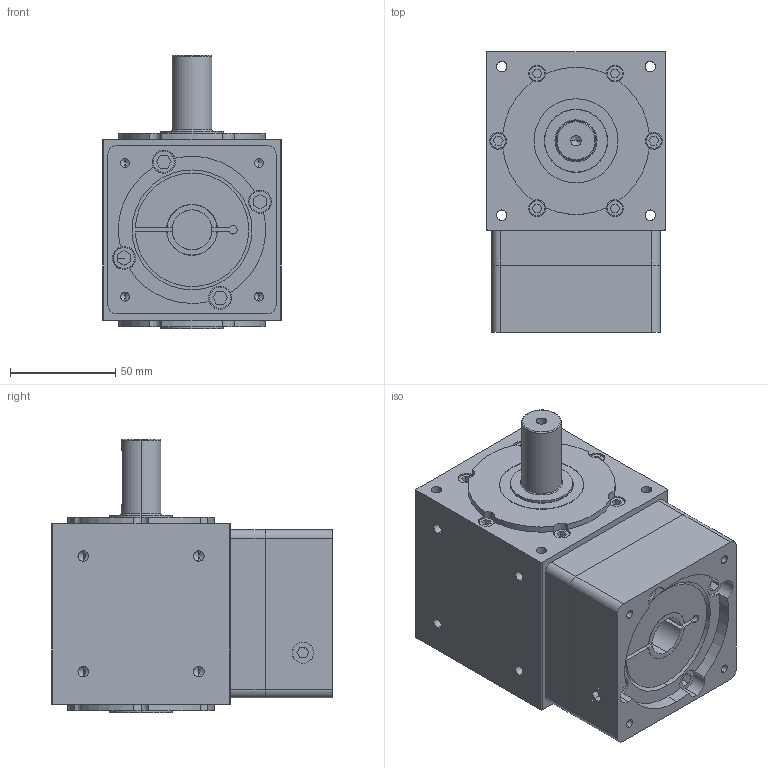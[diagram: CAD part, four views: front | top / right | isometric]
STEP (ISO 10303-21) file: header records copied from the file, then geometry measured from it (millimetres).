
FILE_DESCRIPTION (( 'STEP AP203' ), '1' );
FILE_NAME ('AT85-S1Ä£ÐÍ£¨19-35 70-3 4-5.STEP', '2021-08-27T03:16:14', ( '' ), ( '' ), 'SwSTEP 2.0', 'SolidWorks 2016', '' );
FILE_SCHEMA (( 'CONFIG_CONTROL_DESIGN' ));
Length unit declared in the file: millimetre
Products named in the file (1): AT85-S1模型（19-35 70-3 4-5
Bounding box: 85 x 133.5 x 130 mm (x, y, z)
Volume: 907417.9 mm3; surface area: 101978.5 mm2
Topology: 2 solids, 2 shells, 430 faces, 1085 edges, 699 vertices
Faces by surface type: plane 212, cylinder 188, cone 26, torus 4
Entity records: 13191 total; most frequent: CARTESIAN_POINT 2473, DIRECTION 2319, ORIENTED_EDGE 2134, EDGE_CURVE 1067, AXIS2_PLACEMENT_3D 845, VERTEX_POINT 699, LINE 629, VECTOR 629
